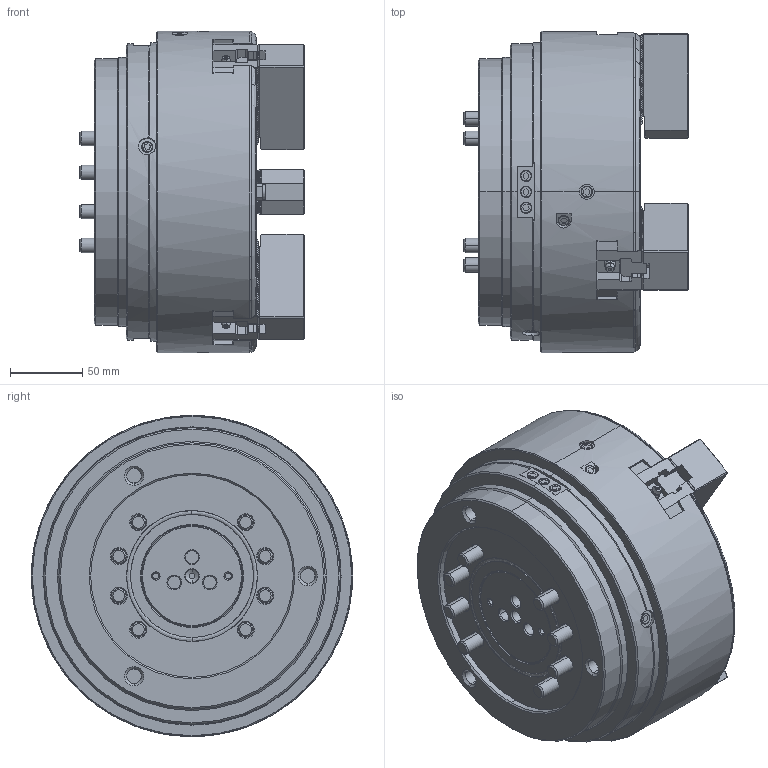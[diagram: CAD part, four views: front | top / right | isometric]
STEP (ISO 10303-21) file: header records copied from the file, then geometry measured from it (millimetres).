
FILE_DESCRIPTION (( 'STEP AP214' ), '1' );
FILE_NAME ('HRS08_OC.STEP', '2023-09-06T05:27:06', ( '' ), ( '' ), 'SwSTEP 2.0', 'SolidWorks 2022', '' );
FILE_SCHEMA (( 'AUTOMOTIVE_DESIGN' ));
Length unit declared in the file: millimetre
Products named in the file (5): HRS08_OC; 0030110025; HRS08_結合; 61P447483; HRS08_dummyjaw_グレー
Assembly tree (13 placements, depth 2):
  HRS08_OC
    HRS08_dummyjaw_グレー  x3
    61P447483  x3
    0030110025  x6
    HRS08_結合
Bounding box: 155 x 222 x 222 mm (x, y, z)
Volume: 3961310.9 mm3; surface area: 289189.5 mm2
Topology: 13 solids, 33 shells, 4361 faces, 11916 edges, 7711 vertices
Faces by surface type: plane 2604, cylinder 965, cone 541, bspline 161, torus 84, sphere 6
Entity records: 112328 total; most frequent: CARTESIAN_POINT 29957, ORIENTED_EDGE 17764, DIRECTION 15604, EDGE_CURVE 8882, VECTOR 6158, LINE 6158, VERTEX_POINT 5784, AXIS2_PLACEMENT_3D 4723
